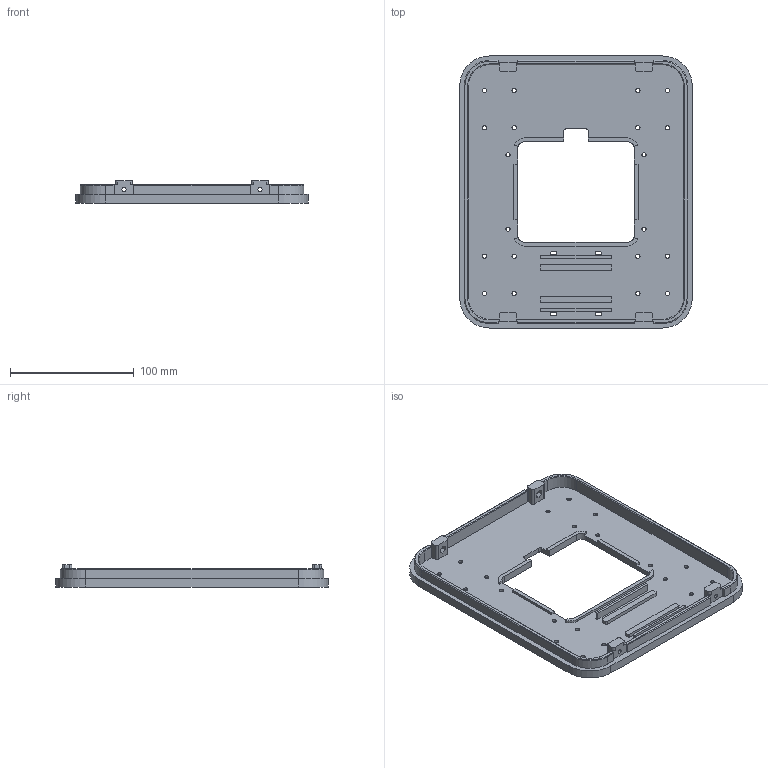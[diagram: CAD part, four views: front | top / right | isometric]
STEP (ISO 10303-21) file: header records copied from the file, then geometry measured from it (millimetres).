
FILE_DESCRIPTION(('FreeCAD Model'),'2;1');
FILE_NAME('Open CASCADE Shape Model','2026-10-26T18:20:27',('FreeCAD'),( 'FreeCAD'),'Open CASCADE STEP processor 7.8','FreeCAD','Unknown');
FILE_SCHEMA(('AUTOMOTIVE_DESIGN { 1 0 10303 214 1 1 1 1 }'));
Length unit declared in the file: millimetre
Products named in the file (1): Open CASCADE STEP translator 7.8 1
Bounding box: 188 x 220 x 18 mm (x, y, z)
Volume: 173977.1 mm3; surface area: 92440.5 mm2
Topology: 1 solids, 1 shells, 301 faces, 800 edges, 528 vertices
Faces by surface type: plane 179, cylinder 114, cone 8
Full cylindrical faces by diameter (mm): 3.4 x8, 3.5 x16, 6.4 x20
Entity records: 9508 total; most frequent: DIRECTION 1660, CARTESIAN_POINT 1630, ORIENTED_EDGE 1600, EDGE_CURVE 800, AXIS2_PLACEMENT_3D 558, LINE 544, VECTOR 544, VERTEX_POINT 528
